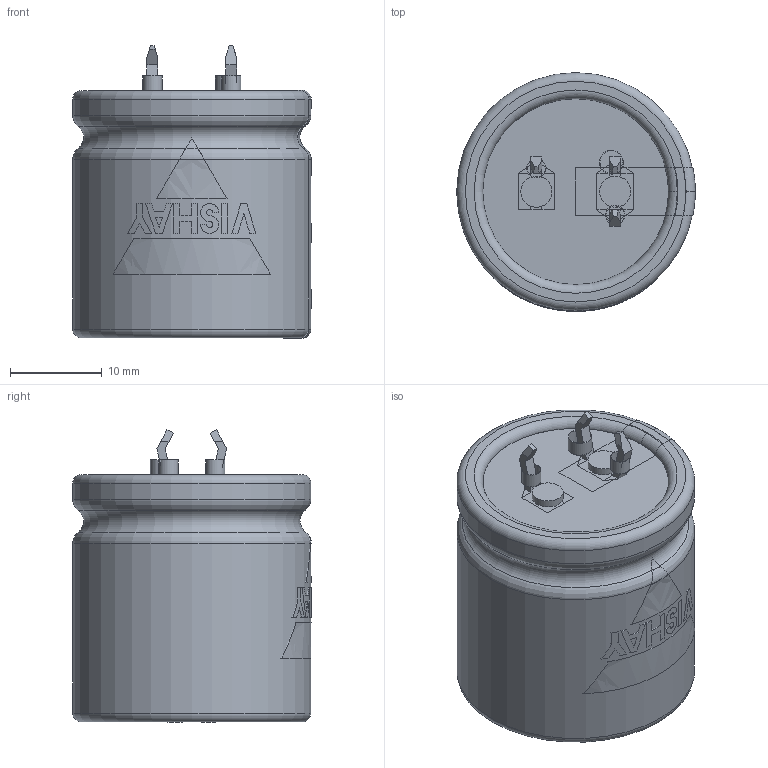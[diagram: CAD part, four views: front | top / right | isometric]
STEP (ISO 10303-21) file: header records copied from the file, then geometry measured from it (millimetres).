
FILE_DESCRIPTION(('FreeCAD Model'),'2;1');
FILE_NAME( 'C:/Users/Gebruiker/Documents/FreeCAD/SnapIn_25x25_3pin_4.0.step', '2020-11-12T21:08:07',('Author'),(''), 'Open CASCADE STEP processor 6.8','FreeCAD','Unknown');
FILE_SCHEMA(('AUTOMOTIVE_DESIGN_CC2 { 1 2 10303 214 -1 1 5 4 }'));
Length unit declared in the file: millimetre
Products named in the file (9): ASSEMBLY; TerminalPlus; Disc; BottomInsulation; Can3D; InkMinusBar; InkLogo; TerminalMinKP; PCBHolesKP
Assembly tree (8 placements, depth 2):
  ASSEMBLY
    TerminalPlus
    Disc
    BottomInsulation
    Can3D
    InkMinusBar
    InkLogo
    TerminalMinKP
    PCBHolesKP
Bounding box: 26.05 x 26.05 x 31.95 mm (x, y, z)
Volume: 16376.2 mm3; surface area: 8457 mm2
Topology: 17 solids, 17 shells, 207 faces, 500 edges, 326 vertices
Faces by surface type: plane 156, cylinder 31, torus 20
Full cylindrical faces by diameter (mm): 2 x2, 2.1 x2, 2.5 x1, 2.6 x1, 3.4 x2, 20.3 x1, 20.8 x2, 26 x2
Entity records: 22071 total; most frequent: CARTESIAN_POINT 10908, DIRECTION 1715, ORIENTED_EDGE 1000, PCURVE 1000, DEFINITIONAL_REPRESENTATION 1000, LINE 951, VECTOR 951, EDGE_CURVE 500
